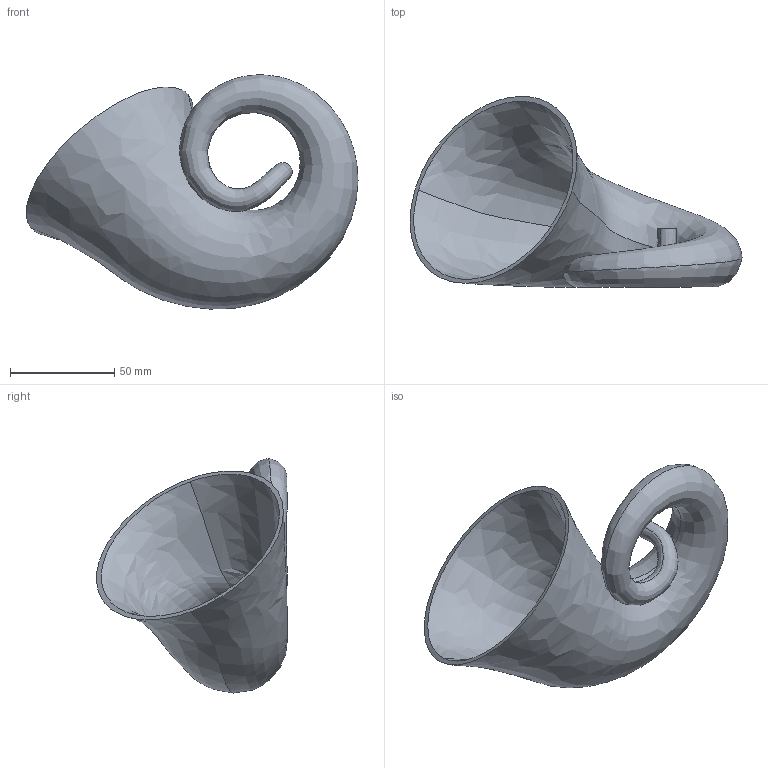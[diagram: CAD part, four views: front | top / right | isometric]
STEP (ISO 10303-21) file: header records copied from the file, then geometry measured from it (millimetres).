
FILE_DESCRIPTION((''),'2;1');
FILE_NAME('SEASHELL_HORN_UNSPLIT-1','2017-04-01T',('dswett'),('iRobot'),'CREO PARAMETRIC BY PTC INC, 2016050','CREO PARAMETRIC BY PTC INC, 2016050','');
FILE_SCHEMA(('CONFIG_CONTROL_DESIGN'));
Length unit declared in the file: millimetre
Products named in the file (1): SEASHELL_HORN_UNSPLIT-1
Bounding box: 159.43 x 91.82 x 112.48 mm (x, y, z)
Surface area: 68431.9 mm2 (no closed solid volume)
Topology: 0 solids, 1 shells, 6 faces, 12 edges, 8 vertices
Faces by surface type: bspline 4, plane 2
Entity records: 4698 total; most frequent: CARTESIAN_POINT 4562, ORIENTED_EDGE 24, B_SPLINE_CURVE_WITH_KNOTS 12, EDGE_CURVE 12, VERTEX_POINT 8, EDGE_LOOP 8, FACE_OUTER_BOUND 6, FACE_SURFACE 6
